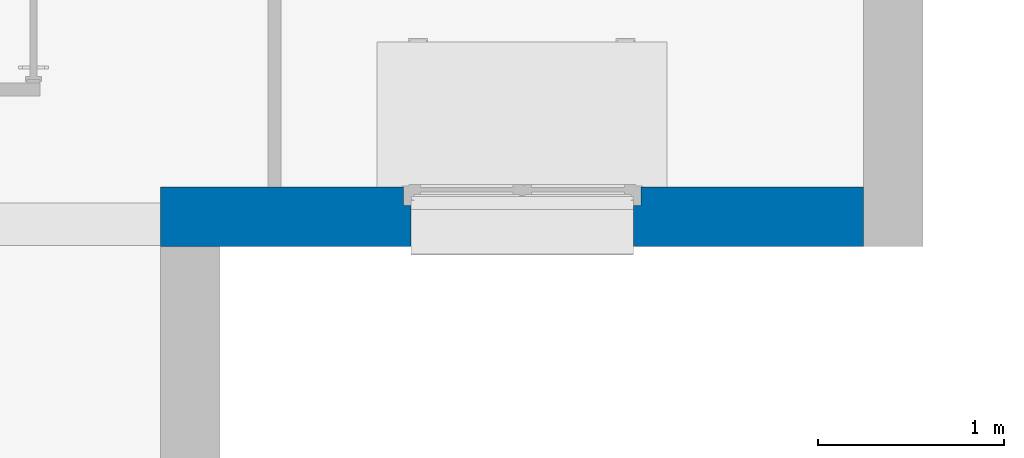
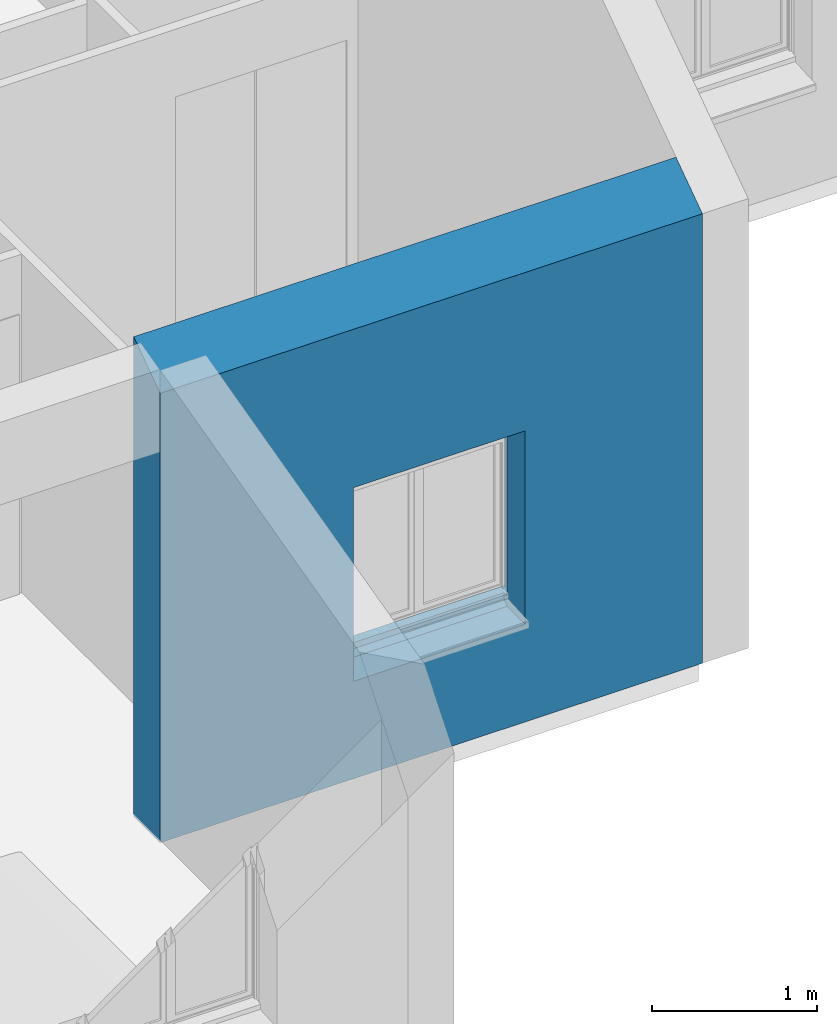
# One storey, part 15 of 50: 1 wall, 1 opening.
"""IFC2X3 building model written with IfcOpenShell, lengths in metres."""

from ifc_helpers import new_model, entity, si_unit, converted_unit, derived_unit, direction, frame, frame_2d, origin, place, context, subcontext, project, spatial, polyline, rectangle, extrude, clip, bounded_halfspace, faceted_brep, material, layer, layer_set, layer_usage, type_object, element, save


model = new_model("IFC2X3")

# Units and contexts
model_context = context("Model", 3, precision=1e-05, world=origin(), true_north=direction((6.12303176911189e-17, 1.0)))
context_of_model = context(None, 3, precision=1e-05, world=origin(), true_north=direction((6.12303176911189e-17, 1.0)))
body_context = subcontext(model_context, "Body", "Model", "MODEL_VIEW")
ifc_project = project(units=[si_unit("LENGTHUNIT", "METRE"), si_unit("AREAUNIT", "SQUARE_METRE"), si_unit("VOLUMEUNIT", "CUBIC_METRE"), converted_unit("PLANEANGLEUNIT", "DEGREE", entity("IfcRatioMeasure", 0.0174532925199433), si_unit("PLANEANGLEUNIT", "RADIAN"), dimensions=[0, 0, 0, 0, 0, 0, 0]), si_unit("MASSUNIT", "GRAM", prefix="KILO"), si_unit("TIMEUNIT", "SECOND"), si_unit("FREQUENCYUNIT", "HERTZ"), si_unit("THERMODYNAMICTEMPERATUREUNIT", "DEGREE_CELSIUS"), derived_unit("THERMALTRANSMITTANCEUNIT", [(si_unit("MASSUNIT", "GRAM", prefix="KILO"), 1), (si_unit("THERMODYNAMICTEMPERATUREUNIT", "KELVIN"), -1), (si_unit("TIMEUNIT", "SECOND"), -3)]), derived_unit("VOLUMETRICFLOWRATEUNIT", [(si_unit("LENGTHUNIT", "METRE"), 3), (si_unit("TIMEUNIT", "SECOND"), -1)]), si_unit("ELECTRICCURRENTUNIT", "AMPERE"), si_unit("ELECTRICVOLTAGEUNIT", "VOLT"), si_unit("POWERUNIT", "WATT"), si_unit("FORCEUNIT", "NEWTON", prefix="KILO"), si_unit("ILLUMINANCEUNIT", "LUX"), si_unit("LUMINOUSFLUXUNIT", "LUMEN"), si_unit("LUMINOUSINTENSITYUNIT", "CANDELA"), si_unit("PRESSUREUNIT", "PASCAL")], contexts=[model_context, context_of_model])

# Site, building, storey
site_placement = place(None, origin())
site = spatial("IfcSite", under=ifc_project, at=site_placement, Name="Surface", CompositionType="ELEMENT")
building_placement = place(site_placement, origin())
building = spatial("IfcBuilding", under=site, at=building_placement, CompositionType="ELEMENT")
storey_placement = place(building_placement, frame((0.0, 0.0, 2.82)))
storey = spatial("IfcBuildingStorey", under=building, at=storey_placement, Name="ETAGE", CompositionType="ELEMENT", Elevation=2.82)

# Wall, opening
ifc_material_1 = material(Name="Enduit blanc cassé2")
ifc_layer_1 = layer(ifc_material_1, 0.02)
ifc_material_2 = material(Name="Parpaing")
ifc_layer_2 = layer(ifc_material_2, 0.2)
ifc_material_3 = material(Name="Isolant")
ifc_layer_3 = layer(ifc_material_3, 0.1)
ifc_layer_set = layer_set([ifc_layer_1, ifc_layer_2, ifc_layer_3], Name="Mur de base:Ext. Parpaing 20 + Isolant 10 enduit blanc cassé")
ifc_layer_usage = layer_usage(ifc_layer_set, "AXIS2", "NEGATIVE", 0.16)
wall_type = type_object("IfcWallType", Name="Mur de base:Ext. Parpaing 20 + Isolant 10 enduit blanc cassé", PredefinedType="STANDARD", material=ifc_layer_set)
wall_placement = place(storey_placement, frame((75.962889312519, 80.0477566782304, 0.0), z_axis=(0.0, 0.0, 1.0), x_axis=(-1.0, 0.0, 0.0)))
wall = element("IfcWallStandardCase", 1, at=wall_placement, inside=storey, type_object=wall_type, material=ifc_layer_usage, Name="Mur de base:Ext. Parpaing 20 + Isolant 10 enduit blanc cassé", ObjectType="Mur de base:Ext. Parpaing 20 + Isolant 10 enduit blanc cassé", context=body_context, shape_type="Clipping", body=[
    clip(extrude(rectangle(XDim=3.78826294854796, YDim=0.319999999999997, at=frame_2d((1.89413147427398, -7.49400541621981e-16), x_axis=(-1.0, 0.0))), origin(), (0.0, 0.0, 1.0), 3.54406641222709), bounded_halfspace(frame((0.0, -0.159999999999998, 3.54406641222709), z_axis=(0.0, 0.573576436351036, 0.819152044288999), x_axis=(-1.0, 0.0, 0.0)), False, frame((0.0, -0.159999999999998, 3.54406641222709)), polyline([(0.0, 0.0), (3.78826294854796, 0.0), (3.78826294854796, 0.319999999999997), (0.0, 0.319999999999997), (0.0, 0.0)]))),
])
opening_placement = place(wall_placement, frame((2.48826294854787, 0.499999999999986, 0.719999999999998), z_axis=(0.0, 0.0, 1.0), x_axis=(-1.0, 0.0, 0.0)))
element("IfcOpeningElement", 2, at=opening_placement, cuts=wall, Name="Mur de base:Ext. Parpaing 20 + Isolant 10 enduit blanc cassé", ObjectType="Opening", context=body_context, shape_type="Brep", body=[
    faceted_brep([(0.050000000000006, 1.0, 1.43), (1.25, 1.0, 1.43), (1.25, 1.0, 0.0800000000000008), (0.050000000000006, 1.0, 0.0800000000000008), (0.0499999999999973, 0.0, 1.43), (0.0499999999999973, 0.0, 0.0800000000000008), (1.24999999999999, 0.0, 0.0800000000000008), (1.24999999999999, 0.0, 1.43), (0.0499999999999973, 0.672999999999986, 1.43), (1.24999999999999, 0.672999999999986, 1.43), (1.25, 0.673000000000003, 0.0800000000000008), (1.29, 0.673000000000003, 0.0800000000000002), (1.29, 0.559999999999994, 0.0800000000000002), (1.25, 0.559999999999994, 0.0800000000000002), (1.25, 0.594999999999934, 0.0800000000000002), (0.0499999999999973, 0.594999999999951, 0.0800000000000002), (0.0499999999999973, 0.559999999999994, 0.0800000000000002), (0.00999999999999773, 0.559999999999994, 0.0800000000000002), (0.00999999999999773, 0.673000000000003, 0.0800000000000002), (0.0499999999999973, 0.673000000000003, 0.0800000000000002), (0.00999999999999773, 0.672999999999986, 1.47), (1.29, 0.672999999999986, 1.47), (1.29, 0.559999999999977, 1.47), (1.3, 0.559999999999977, 1.47), (1.3, 0.559999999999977, 1.65), (0.0, 0.559999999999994, 1.65), (0.0, 0.559999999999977, 1.47), (0.0100000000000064, 0.559999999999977, 1.47), (0.0499999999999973, 0.559999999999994, 1.43), (1.24999999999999, 0.559999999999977, 1.43), (1.3, 0.692999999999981, 1.65), (1.3, 0.692999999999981, 1.47), (0.0, 0.692999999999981, 1.65), (0.0, 0.692999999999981, 1.47), (1.25, 0.559999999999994, 0.0), (0.050000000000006, 0.559999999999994, 0.0), (0.0499999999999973, 0.594999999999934, 0.0349999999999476), (1.25, 0.594999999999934, 0.0349999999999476), (1.24999999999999, 0.294999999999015, 0.0800000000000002), (0.0499999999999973, 0.294999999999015, 0.0800000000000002), (0.0499999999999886, 0.294999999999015, 0.0), (1.25, 0.294999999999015, 0.0)], [[[0, 1, 2, 3]], [[4, 5, 6, 7]], [[0, 8, 9, 1]], [[1, 9, 10, 2]], [[2, 10, 11, 12, 13, 14, 15, 16, 17, 18, 19, 3]], [[3, 19, 8, 0]], [[10, 9, 8, 19, 18, 20, 21, 11]], [[11, 21, 22, 12]], [[12, 22, 23, 24, 25, 26, 27, 17, 16, 28, 29, 13]], [[18, 17, 27, 20]], [[30, 24, 23, 31]], [[32, 33, 26, 25]], [[30, 32, 25, 24]], [[23, 22, 21, 20, 27, 26, 33, 31]], [[31, 33, 32, 30]], [[34, 35, 36, 37]], [[37, 36, 15, 14]], [[38, 39, 40, 41]], [[41, 40, 35, 34]], [[4, 28, 16, 15, 36, 35, 40, 39, 5]], [[5, 39, 38, 6]], [[6, 38, 41, 34, 37, 14, 13, 29, 7]], [[7, 29, 28, 4]]]),
])

save(model, "model.ifc")
